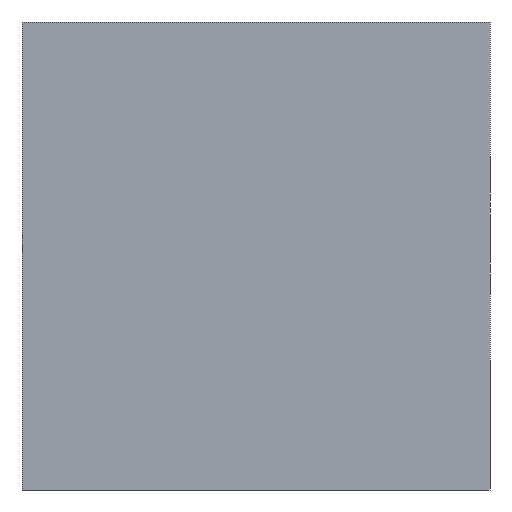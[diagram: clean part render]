
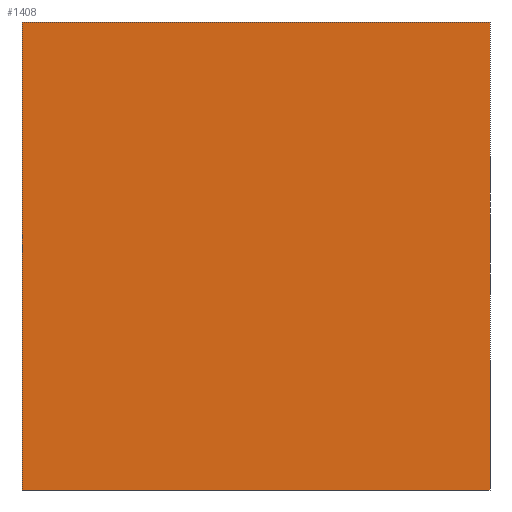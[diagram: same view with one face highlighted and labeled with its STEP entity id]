
A CAD part, front view. The second image highlights one B-rep face of the part: STEP entity #1408.
In plain terms, the highlighted planar face has unit normal (0, -1, 0).
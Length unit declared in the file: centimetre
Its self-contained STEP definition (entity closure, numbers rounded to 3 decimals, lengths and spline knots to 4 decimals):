
#36 = LINE ( 'NONE', #1043, #1096 ) ;
#38 = DIRECTION ( 'NONE',  ( 1., 0., 0. ) ) ;
#171 = LINE ( 'NONE', #743, #998 ) ;
#179 = CARTESIAN_POINT ( 'NONE',  ( 0., 0., 1000. ) ) ;
#187 = ORIENTED_EDGE ( 'NONE', *, *, #1521, .T. ) ;
#221 = DIRECTION ( 'NONE',  ( 0., 0., 1. ) ) ;
#239 = LINE ( 'NONE', #1793, #1787 ) ;
#244 = ORIENTED_EDGE ( 'NONE', *, *, #1483, .T. ) ;
#333 = VERTEX_POINT ( 'NONE', #1669 ) ;
#560 = AXIS2_PLACEMENT_3D ( 'NONE', #1470, #1481, #221 ) ;
#728 = DIRECTION ( 'NONE',  ( 0., 0., -1. ) ) ;
#743 = CARTESIAN_POINT ( 'NONE',  ( 0., 0., 0. ) ) ;
#823 = DIRECTION ( 'NONE',  ( 1., 0., 0. ) ) ;
#861 = VERTEX_POINT ( 'NONE', #1681 ) ;
#887 = ORIENTED_EDGE ( 'NONE', *, *, #1186, .F. ) ;
#902 = VERTEX_POINT ( 'NONE', #1528 ) ;
#916 = ORIENTED_EDGE ( 'NONE', *, *, #1044, .F. ) ;
#939 = EDGE_LOOP ( 'NONE', ( #187, #916, #887, #244 ) ) ;
#998 = VECTOR ( 'NONE', #38, 100. ) ;
#1043 = CARTESIAN_POINT ( 'NONE',  ( 1000., 0., 1000. ) ) ;
#1044 = EDGE_CURVE ( 'NONE', #902, #333, #36, .T. ) ;
#1096 = VECTOR ( 'NONE', #1310, 100. ) ;
#1120 = VERTEX_POINT ( 'NONE', #1334 ) ;
#1186 = EDGE_CURVE ( 'NONE', #861, #902, #239, .T. ) ;
#1202 = PLANE ( 'NONE',  #560 ) ;
#1283 = VECTOR ( 'NONE', #728, 100. ) ;
#1310 = DIRECTION ( 'NONE',  ( 0., 0., -1. ) ) ;
#1334 = CARTESIAN_POINT ( 'NONE',  ( 0., 0., 0. ) ) ;
#1408 = ADVANCED_FACE ( 'NONE', ( #1490 ), #1202, .F. ) ;
#1438 = LINE ( 'NONE', #179, #1283 ) ;
#1470 = CARTESIAN_POINT ( 'NONE',  ( 0., 0., 1000. ) ) ;
#1481 = DIRECTION ( 'NONE',  ( 0., 1., 0. ) ) ;
#1483 = EDGE_CURVE ( 'NONE', #861, #1120, #1438, .T. ) ;
#1490 = FACE_OUTER_BOUND ( 'NONE', #939, .T. ) ;
#1521 = EDGE_CURVE ( 'NONE', #1120, #333, #171, .T. ) ;
#1528 = CARTESIAN_POINT ( 'NONE',  ( 1000., 0., 1000. ) ) ;
#1669 = CARTESIAN_POINT ( 'NONE',  ( 1000., 0., 0. ) ) ;
#1681 = CARTESIAN_POINT ( 'NONE',  ( 0., 0., 1000. ) ) ;
#1787 = VECTOR ( 'NONE', #823, 100. ) ;
#1793 = CARTESIAN_POINT ( 'NONE',  ( 0., 0., 1000. ) ) ;
